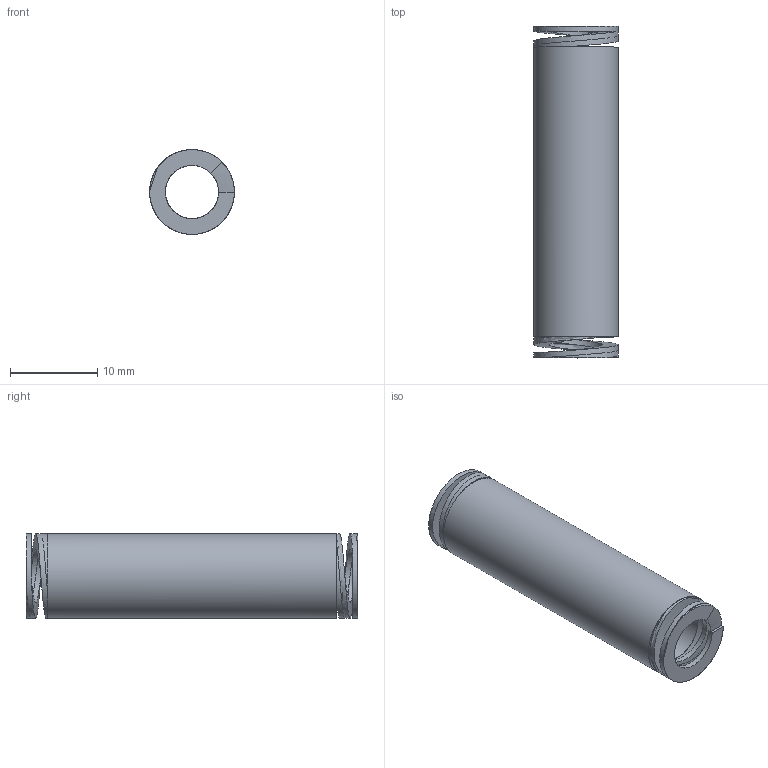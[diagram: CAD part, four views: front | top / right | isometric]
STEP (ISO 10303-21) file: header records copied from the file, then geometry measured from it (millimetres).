
FILE_DESCRIPTION(/* description */ ('Max 37,5% | 14.3 | 170'),/* implementation_level */ '2;1');
FILE_NAME(/* name */ '2S10038.step',/* time_stamp */ '2026-10-07T11:23:59+02:00',/* author */ ('2S'),/* organization */ ('1,8x1,2 prostokatny'),/* preprocessor_version */ 'ST-DEVELOPER v20.1',/* originating_system */ 'Autodesk Inventor 2026',/* authorisation */ '11.9');
FILE_SCHEMA (('AUTOMOTIVE_DESIGN { 1 0 10303 214 3 1 1 }'));
Length unit declared in the file: millimetre
Products named in the file (1): 2S10038
Bounding box: 9.7 x 38 x 9.7 mm (x, y, z)
Volume: 1616.6 mm3; surface area: 2109.9 mm2
Topology: 1 solids, 1 shells, 22 faces, 72 edges, 44 vertices
Faces by surface type: bspline 14, plane 6, cylinder 2
Full cylindrical faces by diameter (mm): 6.099 x1, 9.701 x1
Entity records: 2520 total; most frequent: CARTESIAN_POINT 2044, ORIENTED_EDGE 120, EDGE_CURVE 60, B_SPLINE_CURVE_WITH_KNOTS 48, VERTEX_POINT 38, DIRECTION 34, EDGE_LOOP 26, FACE_OUTER_BOUND 22
